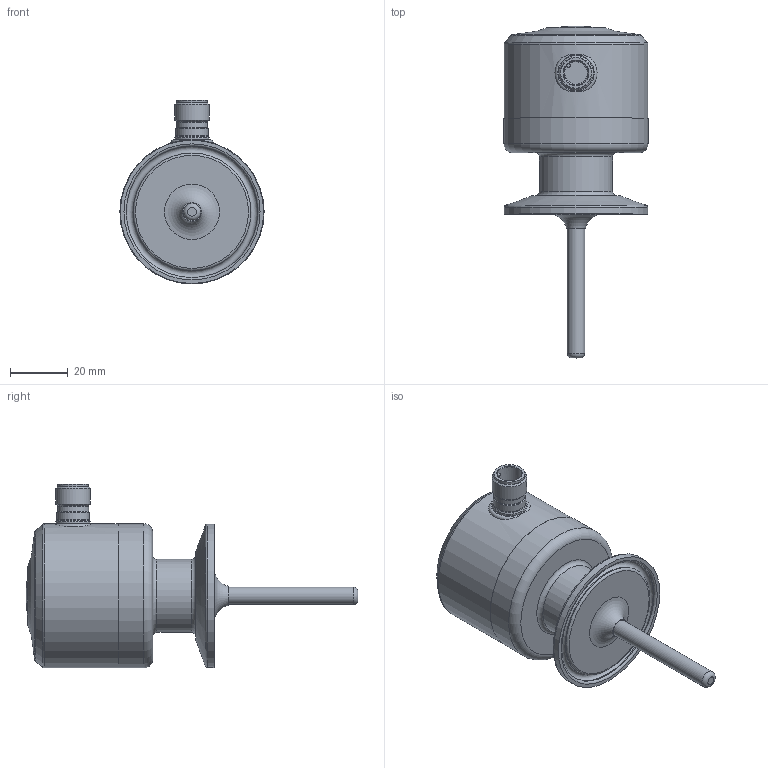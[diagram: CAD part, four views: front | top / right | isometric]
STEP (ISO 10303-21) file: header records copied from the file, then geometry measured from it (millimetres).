
FILE_DESCRIPTION( ( 'STEP AP203' ), '1' );
FILE_NAME( 'p:/temp/worker_686/temp/exporttempdir_3476_425_aK9yK/format_4/TCC811.stp', '2020-12-02T08:38:51', ( 'License CC BY-ND 4.0' ), ( 'CADENAS' ), ' ', 'PARTsolutions', ' ' );
FILE_SCHEMA( ( 'CONFIG_CONTROL_DESIGN' ) );
Length unit declared in the file: millimetre
Products named in the file (1): _TCC811
Bounding box: 50.1 x 115.34 x 63.9 mm (x, y, z)
Volume: 101193.5 mm3; surface area: 16461.9 mm2
Topology: 1 solids, 1 shells, 58 faces, 112 edges, 65 vertices
Faces by surface type: cylinder 16, torus 16, plane 14, cone 11, sphere 1
Full cylindrical faces by diameter (mm): 6 x1, 8.4 x1, 10.6 x1, 10.8 x1, 11.3 x1, 12 x2, 25.4 x1, 40.88 x1, 45.68 x1, 49.8 x1, 50 x1, 50.1 x1
Entity records: 1378 total; most frequent: CARTESIAN_POINT 297, DIRECTION 236, ORIENTED_EDGE 142, AXIS2_PLACEMENT_3D 114, EDGE_LOOP 105, FACE_OUTER_BOUND 84, EDGE_CURVE 71, VERTEX_POINT 63
